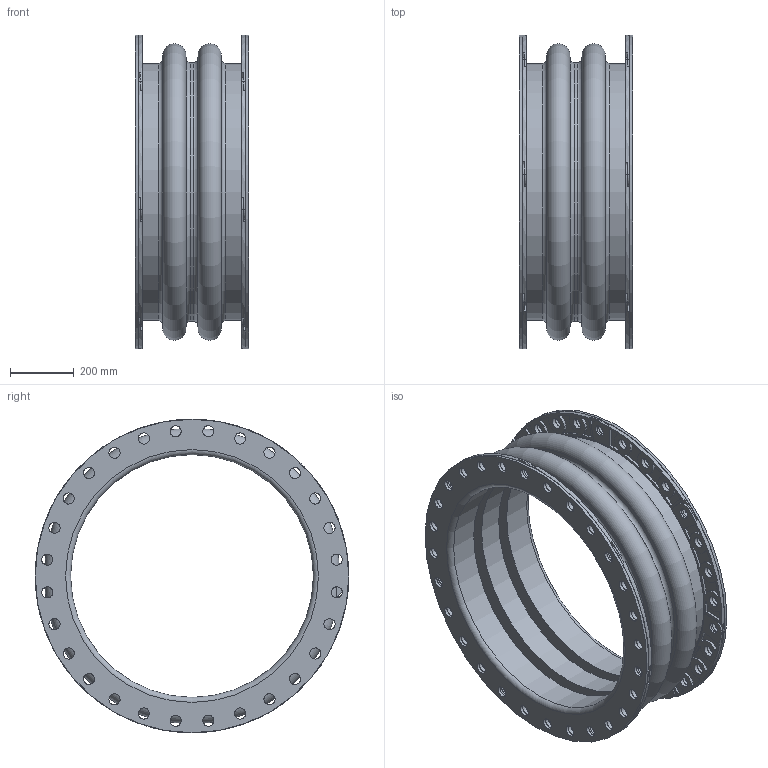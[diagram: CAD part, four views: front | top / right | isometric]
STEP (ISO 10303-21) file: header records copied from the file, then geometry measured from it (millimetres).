
FILE_DESCRIPTION(/* description */ (''),/* implementation_level */ '2;1');
FILE_NAME(/* name */ 'C:\001_Work\Designs\Mercer2014\MQInventor2014\RajR\500 Style\502\STP\502 30IDx14FF.stp',/* time_stamp */ '2016-03-16T15:30:55-04:00',/* author */ ('mquog'),/* organization */ (''),/* preprocessor_version */ 'ST-DEVELOPER v15.2',/* originating_system */ 'Autodesk Inventor 2014',/* authorisation */ '');
FILE_SCHEMA (('AUTOMOTIVE_DESIGN { 1 0 10303 214 3 1 1 }'));
Length unit declared in the file: centimetre
Products named in the file (1): 502 30IDx14FF
Bounding box: 355.6 x 984.25 x 984.25 mm (x, y, z)
Volume: 39413449.7 mm3; surface area: 5002931.3 mm2
Topology: 3 solids, 3 shells, 1082 faces, 2972 edges, 1950 vertices
Faces by surface type: cylinder 722, plane 312, torus 40, cone 8
Full cylindrical faces by diameter (mm): 34.925 x56, 34.99 x70, 762 x3, 806.45 x2, 812.8 x1, 984.25 x2
Entity records: 36522 total; most frequent: CARTESIAN_POINT 6747, DIRECTION 6486, ORIENTED_EDGE 5608, EDGE_CURVE 2804, AXIS2_PLACEMENT_3D 2683, VERTEX_POINT 1936, CIRCLE 1600, EDGE_LOOP 1520
